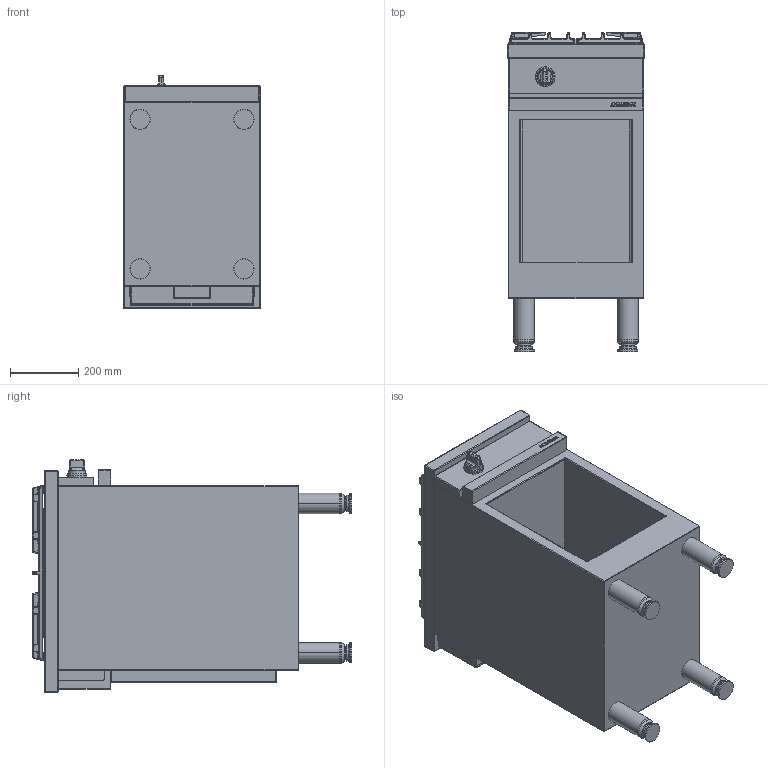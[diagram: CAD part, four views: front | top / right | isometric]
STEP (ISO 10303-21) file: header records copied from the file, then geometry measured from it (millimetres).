
FILE_DESCRIPTION((''),'2;1');
FILE_NAME('CMG410XR_EXPORT_STEP_ASM','2017-11-22T',('r.avril'),(''),'PRO/ENGINEER BY PARAMETRIC TECHNOLOGY CORPORATION, 2014200','PRO/ENGINEER BY PARAMETRIC TECHNOLOGY CORPORATION, 2014200','');
FILE_SCHEMA(('AP203_CONFIGURATION_CONTROLLED_3D_DESIGN_OF_MECHANICAL_PARTS_AND_ASSEMBLIES_MIM_LF { 1 0 10303 403 2 1 2 }'));
Products named in the file (9): MODULES_AMB_400_EXPORT_STEP; TABLE_410_XR; BRULEUR_7_KW; 6537025; 65149005; 90000488_ASM; TABLE_410_XR_ASM; MANETTE_AMB_EXPORT_STEP; CMG410XR_EXPORT_STEP_ASM
Assembly tree (12 placements, depth 4):
  CMG410XR_EXPORT_STEP_ASM
    MODULES_AMB_400_EXPORT_STEP
    TABLE_410_XR_ASM
      TABLE_410_XR
      BRULEUR_7_KW
      90000488_ASM  x2
        6537025
        65149005
    MANETTE_AMB_EXPORT_STEP
Bounding box: 400 x 935 x 682.5 mm (x, y, z)
Volume: 52801689.3 mm3; surface area: 4347045 mm2
Topology: 21 solids, 39 shells, 1703 faces, 4915 edges, 3586 vertices
Faces by surface type: cylinder 574, plane 460, bspline 400, cone 108, sphere 87, torus 74
Entity records: 52763 total; most frequent: CARTESIAN_POINT 17889, ORIENTED_EDGE 5010, DIRECTION 4879, EDGE_CURVE 2730, PRESENTATION_STYLE_ASSIGNMENT 2070, STYLED_ITEM 2070, CURVE_STYLE 1883, VERTEX_POINT 1785
